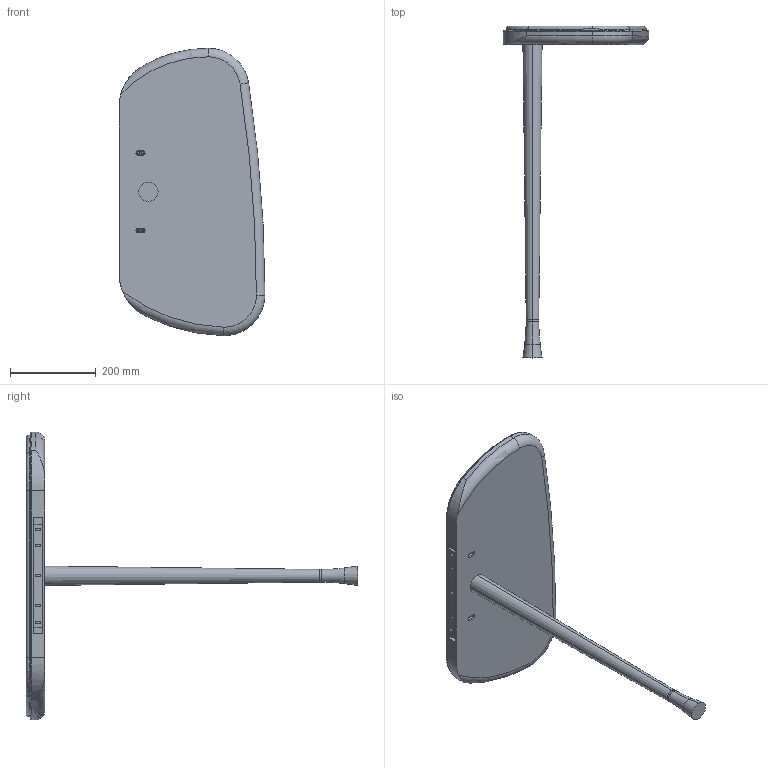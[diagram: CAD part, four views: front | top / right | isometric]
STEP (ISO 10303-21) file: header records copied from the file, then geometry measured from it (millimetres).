
FILE_DESCRIPTION (( 'STEP AP203' ), '1' );
FILE_NAME ('CONSOLA_MARMOL.STEP', '2017-05-05T07:22:13', ( 'Usuario' ), ( '' ), 'SwSTEP 2.0', 'SolidWorks 2016', '' );
FILE_SCHEMA (( 'CONFIG_CONTROL_DESIGN' ));
Length unit declared in the file: millimetre
Products named in the file (5): 1_PALO_BASE; PLACA_MARMOL_CONSOLA; 3_ANCLAJE; 2_REPISA_NOGAL; CONSOLA_MARMOL
Assembly tree (4 placements, depth 2):
  CONSOLA_MARMOL
    1_PALO_BASE
    2_REPISA_NOGAL
    3_ANCLAJE
    PLACA_MARMOL_CONSOLA
Bounding box: 340 x 773 x 670 mm (x, y, z)
Volume: 9157188.2 mm3; surface area: 985292.5 mm2
Topology: 4 solids, 4 shells, 152 faces, 372 edges, 232 vertices
Faces by surface type: cylinder 61, plane 45, torus 34, cone 12
Entity records: 5460 total; most frequent: CARTESIAN_POINT 1206, DIRECTION 858, ORIENTED_EDGE 744, EDGE_CURVE 372, AXIS2_PLACEMENT_3D 349, VERTEX_POINT 232, CIRCLE 190, EDGE_LOOP 174
